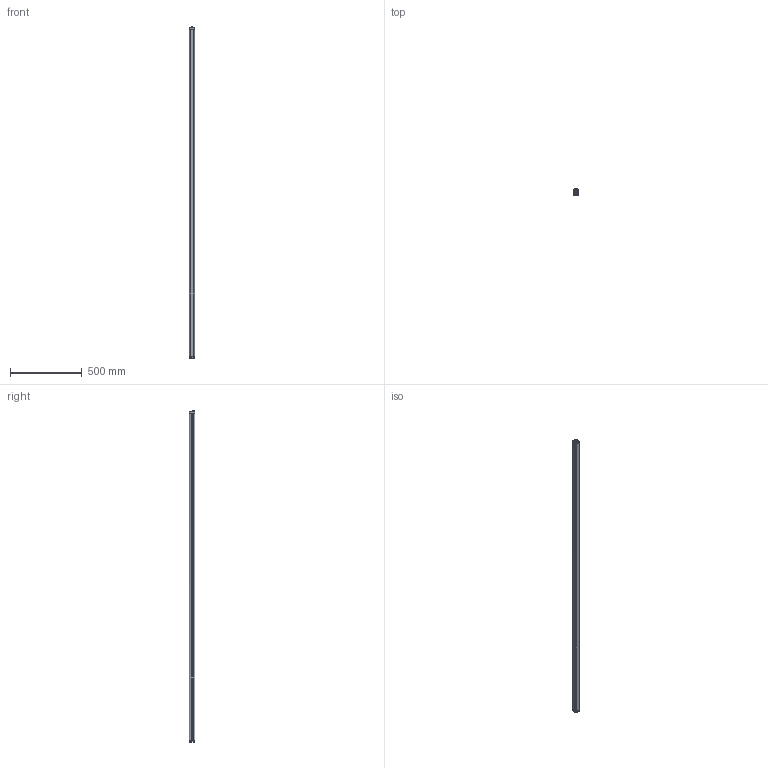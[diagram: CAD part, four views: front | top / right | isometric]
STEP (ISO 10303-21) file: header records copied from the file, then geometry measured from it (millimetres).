
FILE_DESCRIPTION(/* description */ (''),/* implementation_level */ '2;1');
FILE_NAME(/* name */ 'DSD-1024 DS2-05-07-225-JV _RX_STP.stp',/* time_stamp */ '2020-07-21T16:11:13+02:00',/* author */ (''),/* organization */ (''),/* preprocessor_version */ 'ST-DEVELOPER v16.7',/* originating_system */ 'SIEMENS PLM Software NX 12.0',/* authorisation */ '');
FILE_SCHEMA (('AUTOMOTIVE_DESIGN { 1 0 10303 214 3 1 1 1 }'));
Length unit declared in the file: millimetre
Products named in the file (1): fgut3274CB3Etk8b
Bounding box: 35 x 40.1 x 2314.3 mm (x, y, z)
Volume: 2789842.4 mm3; surface area: 452920.6 mm2
Topology: 1 solids, 3 shells, 1268 faces, 3226 edges, 1950 vertices
Faces by surface type: plane 469, cylinder 445, bspline 168, cone 106, sphere 56, torus 24
Full cylindrical faces by diameter (mm): 1 x4, 2 x2, 2.4 x4, 2.6 x8, 3 x1, 3.7 x8, 3.8 x4, 4.2 x1, 5 x8, 6 x1, 6.8 x1, 8.3 x1, 10.4 x1, 10.55 x1, 12 x11, 14 x1, 14.5 x1
Entity records: 49383 total; most frequent: CARTESIAN_POINT 14095, ORIENTED_EDGE 6166, DIRECTION 5410, EDGE_CURVE 3083, AXIS2_PLACEMENT_3D 2108, VERTEX_POINT 1935, EDGE_LOOP 1380, ADVANCED_FACE 1260
